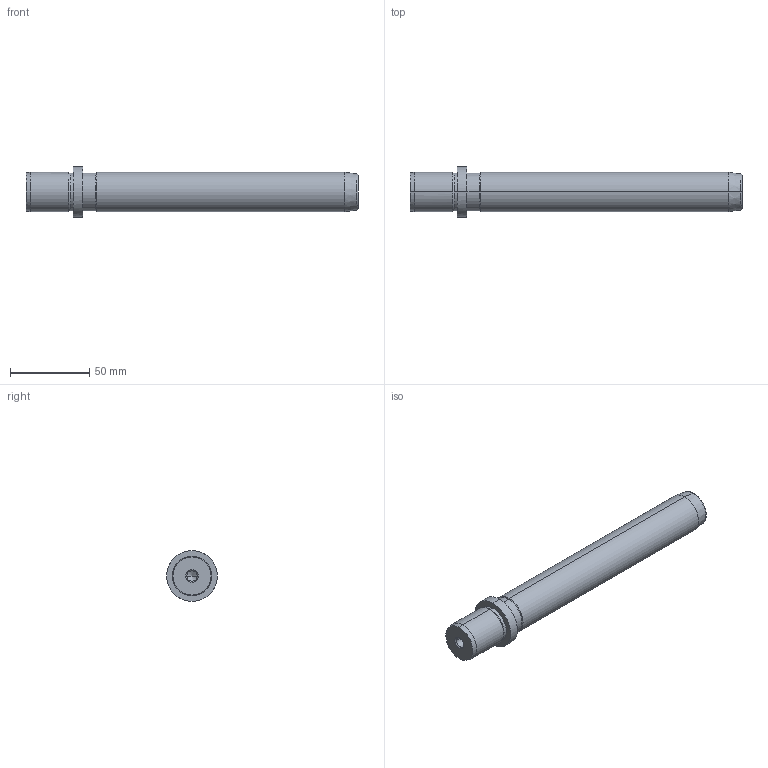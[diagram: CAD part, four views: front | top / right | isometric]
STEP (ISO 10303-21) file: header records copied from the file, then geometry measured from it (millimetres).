
FILE_DESCRIPTION(('CATIA V5 STEP Exchange'),'2;1');
FILE_NAME('C:\Users\Utente\Desktop\IO LAVORO\3D X SITO CF\X SITO\719\719-25x180.stp','2021-01-03T16:21:04+00:00',('none'),('none'),'CATIA Version 5 Release 20 GA (IN-10)','CATIA V5 STEP AP203','none');
FILE_SCHEMA(('CONFIG_CONTROL_DESIGN'));
Length unit declared in the file: millimetre
Products named in the file (1): 719-25x180
Bounding box: 210 x 32 x 32 mm (x, y, z)
Volume: 102386.3 mm3; surface area: 19129.7 mm2
Topology: 1 solids, 1 shells, 36 faces, 100 edges, 66 vertices
Faces by surface type: cone 16, cylinder 14, plane 4, torus 2
Entity records: 1270 total; most frequent: CARTESIAN_POINT 339, ORIENTED_EDGE 192, DIRECTION 158, EDGE_CURVE 96, AXIS2_PLACEMENT_3D 93, VERTEX_POINT 66, CIRCLE 56, EDGE_LOOP 40
